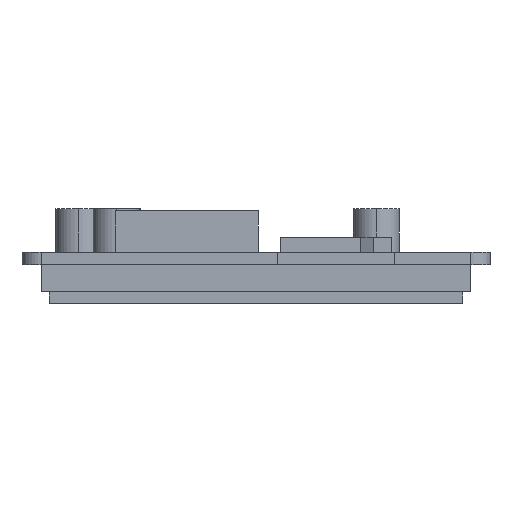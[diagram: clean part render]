
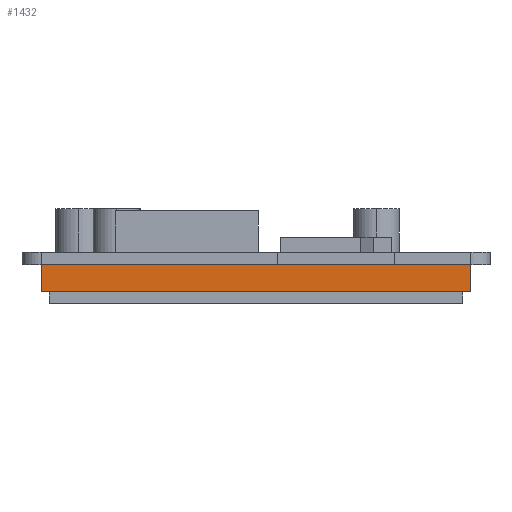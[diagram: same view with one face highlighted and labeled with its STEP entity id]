
A CAD part, left-side view. The second image highlights one B-rep face of the part: STEP entity #1432.
In plain terms, the highlighted planar face has unit normal (-1, 0, 0).
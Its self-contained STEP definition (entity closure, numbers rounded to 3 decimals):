
#335=DIRECTION('',(0.,1.,0.));
#336=VECTOR('',#335,56.8);
#337=CARTESIAN_POINT('',(-45.55,-28.4,-1.6));
#338=LINE('',#337,#336);
#427=DIRECTION('',(0.,0.,-1.));
#428=VECTOR('',#427,3.6);
#429=CARTESIAN_POINT('',(-45.55,28.4,-1.6));
#430=LINE('',#429,#428);
#431=DIRECTION('',(0.,0.,-1.));
#432=VECTOR('',#431,3.6);
#433=CARTESIAN_POINT('',(-45.55,-28.4,-1.6));
#434=LINE('',#433,#432);
#447=DIRECTION('',(0.,1.,0.));
#448=VECTOR('',#447,56.8);
#449=CARTESIAN_POINT('',(-45.55,-28.4,-5.2));
#450=LINE('',#449,#448);
#769=CARTESIAN_POINT('',(-45.55,28.4,-5.2));
#771=VERTEX_POINT('',#769);
#775=CARTESIAN_POINT('',(-45.55,-28.4,-5.2));
#776=VERTEX_POINT('',#775);
#777=CARTESIAN_POINT('',(-45.55,28.4,-1.6));
#779=VERTEX_POINT('',#777);
#783=CARTESIAN_POINT('',(-45.55,-28.4,-1.6));
#784=VERTEX_POINT('',#783);
#1419=CARTESIAN_POINT('',(-45.55,-28.4,-1.6));
#1420=DIRECTION('',(-1.,0.,0.));
#1421=DIRECTION('',(0.,1.,0.));
#1422=AXIS2_PLACEMENT_3D('',#1419,#1420,#1421);
#1423=PLANE('',#1422);
#1424=ORIENTED_EDGE('',*,*,#1113,.F.);
#1426=ORIENTED_EDGE('',*,*,#1425,.T.);
#1428=ORIENTED_EDGE('',*,*,#1427,.T.);
#1429=ORIENTED_EDGE('',*,*,#1410,.F.);
#1430=EDGE_LOOP('',(#1424,#1426,#1428,#1429));
#1431=FACE_OUTER_BOUND('',#1430,.F.);
#1113=EDGE_CURVE('',#784,#779,#338,.T.);
#1410=EDGE_CURVE('',#779,#771,#430,.T.);
#1425=EDGE_CURVE('',#784,#776,#434,.T.);
#1427=EDGE_CURVE('',#776,#771,#450,.T.);
#1432=ADVANCED_FACE('',(#1431),#1423,.T.);
